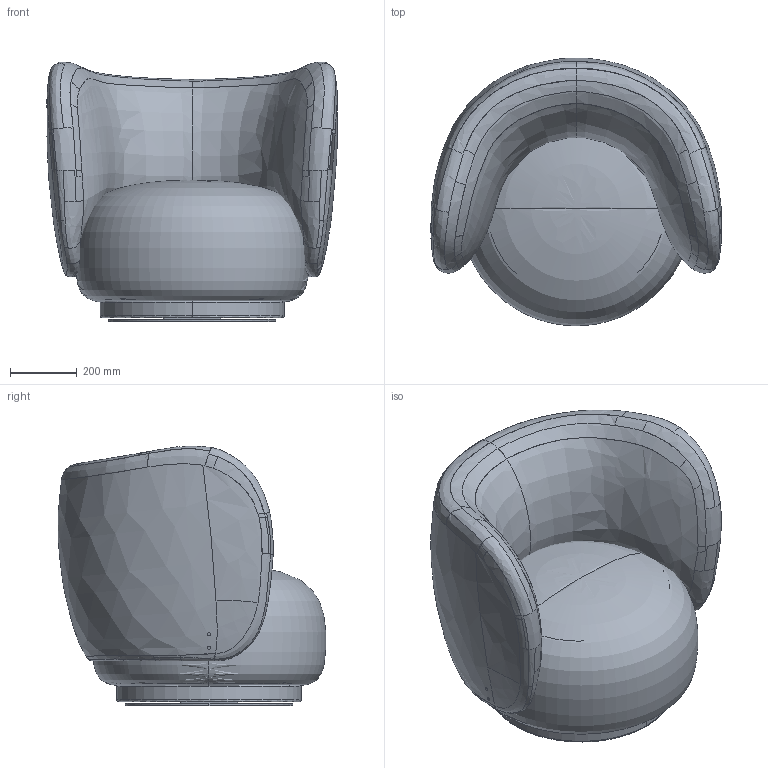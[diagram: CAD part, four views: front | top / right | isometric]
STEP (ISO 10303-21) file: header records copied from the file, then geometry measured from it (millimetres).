
FILE_DESCRIPTION(/* description */ (''),/* implementation_level */ '2;1');
FILE_NAME(/* name */ 'RCPGJM~1',/* time_stamp */ '2019-03-12T16:10:37+01:00',/* author */ (''),/* organization */ (''),/* preprocessor_version */ 'ST-DEVELOPER v15',/* originating_system */ '',/* authorisation */ '');
FILE_SCHEMA (('AUTOMOTIVE_DESIGN'));
Products named in the file (5): Document; SUPPORTO GIREVOLE 646.15.023; FL18RIC_POLTRONA_FUSTO_SEDUTA; Block 01; Block 03
Assembly tree (4 placements, depth 2):
  Document
    SUPPORTO GIREVOLE 646.15.023
    FL18RIC_POLTRONA_FUSTO_SEDUTA
    Block 01
    Block 03
Bounding box: 866.77 x 798.47 x 776 mm (x, y, z)
Volume: 42906221.7 mm3; surface area: 6538077.8 mm2
Topology: 16 solids, 46 shells, 966 faces, 3292 edges, 2180 vertices
Faces by surface type: bspline 734, plane 232
Entity records: 231222 total; most frequent: CARTESIAN_POINT 213453, ORIENTED_EDGE 5800, EDGE_CURVE 3274, B_SPLINE_CURVE_WITH_KNOTS 2185, VERTEX_POINT 2176, EDGE_LOOP 1112, ADVANCED_FACE 966, FACE_OUTER_BOUND 966
